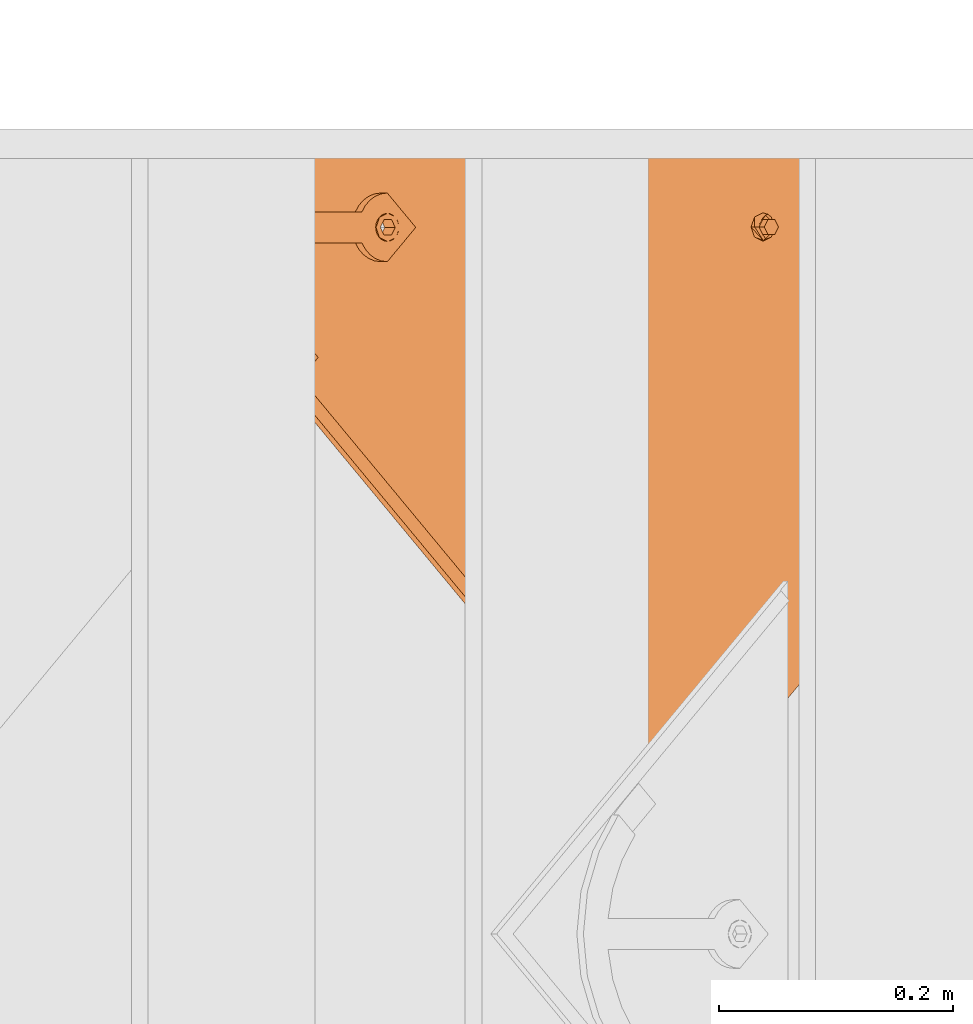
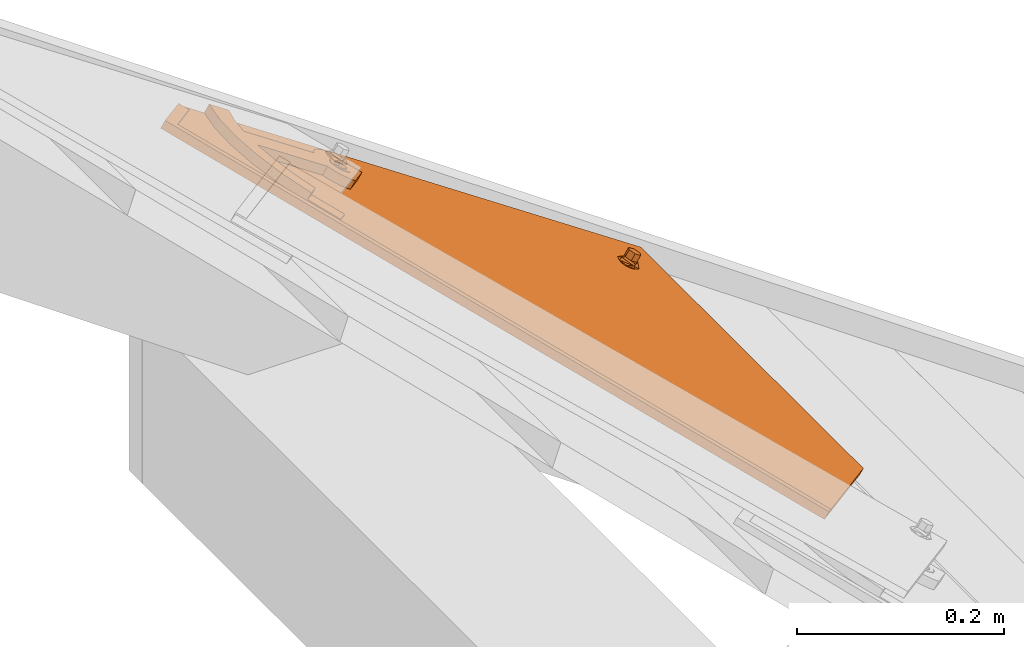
# One storey, part 121 of 133: 1 proxy.
"""IFC2X3 building model written with IfcOpenShell, lengths in millimetres."""

from ifc_helpers import new_model, entity, si_unit, converted_unit, derived_unit, direction, frame, origin, place, context, subcontext, project, spatial, faceted_brep, source, transform, mapped, material, material_list, type_object, type_shapes, element, save


model = new_model("IFC2X3")

# Units and contexts
model_context = context("Model", 3, precision=0.01, world=origin(), true_north=direction((6.12303176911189e-17, 1.0)))
body_context = subcontext(model_context, "Body", "Model", "MODEL_VIEW")
ifc_project = project(units=[si_unit("LENGTHUNIT", "METRE", prefix="MILLI"), si_unit("AREAUNIT", "SQUARE_METRE"), si_unit("VOLUMEUNIT", "CUBIC_METRE"), converted_unit("PLANEANGLEUNIT", "DEGREE", entity("IfcRatioMeasure", 0.0174532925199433), si_unit("PLANEANGLEUNIT", "RADIAN"), dimensions=[0, 0, 0, 0, 0, 0, 0]), si_unit("MASSUNIT", "GRAM", prefix="KILO"), derived_unit("MASSDENSITYUNIT", [(si_unit("MASSUNIT", "GRAM", prefix="KILO"), 1), (si_unit("LENGTHUNIT", "METRE"), -3)]), si_unit("TIMEUNIT", "SECOND"), si_unit("FREQUENCYUNIT", "HERTZ"), si_unit("THERMODYNAMICTEMPERATUREUNIT", "DEGREE_CELSIUS"), derived_unit("THERMALTRANSMITTANCEUNIT", [(si_unit("MASSUNIT", "GRAM", prefix="KILO"), 1), (si_unit("THERMODYNAMICTEMPERATUREUNIT", "KELVIN"), -1), (si_unit("TIMEUNIT", "SECOND"), -3)]), derived_unit("VOLUMETRICFLOWRATEUNIT", [(si_unit("LENGTHUNIT", "METRE"), 3), (si_unit("TIMEUNIT", "SECOND"), -1)]), si_unit("ELECTRICCURRENTUNIT", "AMPERE"), si_unit("ELECTRICVOLTAGEUNIT", "VOLT"), si_unit("POWERUNIT", "WATT"), si_unit("FORCEUNIT", "NEWTON", prefix="KILO"), si_unit("ILLUMINANCEUNIT", "LUX"), si_unit("LUMINOUSFLUXUNIT", "LUMEN"), si_unit("LUMINOUSINTENSITYUNIT", "CANDELA"), derived_unit("USERDEFINED", [(si_unit("MASSUNIT", "GRAM", prefix="KILO"), -1), (si_unit("LENGTHUNIT", "METRE"), -2), (si_unit("TIMEUNIT", "SECOND"), 3), (si_unit("LUMINOUSFLUXUNIT", "LUMEN"), 1)]), derived_unit("LINEARVELOCITYUNIT", [(si_unit("LENGTHUNIT", "METRE"), 1), (si_unit("TIMEUNIT", "SECOND"), -1)]), si_unit("PRESSUREUNIT", "PASCAL"), derived_unit("USERDEFINED", [(si_unit("LENGTHUNIT", "METRE"), -2), (si_unit("MASSUNIT", "GRAM", prefix="KILO"), 1), (si_unit("TIMEUNIT", "SECOND"), -2)])], contexts=[model_context])

# Site, building, storey
site_placement = place(None, origin())
site = spatial("IfcSite", under=ifc_project, at=site_placement, Name="Default", CompositionType="ELEMENT")
building_placement = place(site_placement, origin())
building = spatial("IfcBuilding", under=site, at=building_placement, CompositionType="ELEMENT")
storey_placement = place(building_placement, origin())
storey = spatial("IfcBuildingStorey", under=building, at=storey_placement, Name="Level 1", CompositionType="ELEMENT", Elevation=0.0)

# Proxy
ifc_material_1 = material(Name="Rubber - Sunstyle - Black")
ifc_material_2 = material(Name="Glass - Sunstyle - Tainted Black")
ifc_material_list_1 = material_list([ifc_material_1, ifc_material_2])
ifc_material_list_2 = material_list([ifc_material_1, ifc_material_2])
building_element_proxy_type = type_object("IfcBuildingElementProxyType", Name="Corner Bottom Big Right - Black", PredefinedType="NOTDEFINED", material=ifc_material_list_2)
shared_shape = source(origin(), body_context, "Body", "Brep", [
    faceted_brep([(0.270009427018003, -2.025866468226, -4.01619789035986), (-5.50419340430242, -5.35913660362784, -3.96037390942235), (-5.50419340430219, -4.99082751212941, 18.0314954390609), (0.270009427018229, -1.65755737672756, 17.9756714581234), (-5.50419340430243, -12.0256768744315, -3.84872594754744), (-5.5041934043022, -11.6573677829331, 18.1431434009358), (0.270009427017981, -15.3589470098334, -3.79290196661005), (0.270009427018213, -14.990637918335, 18.1989673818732), (6.04421225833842, -12.0256768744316, -3.84872594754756), (6.04421225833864, -11.6573677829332, 18.1431434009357), (6.04421225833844, -5.35913660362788, -3.96037390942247), (6.04421225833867, -4.99082751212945, 18.0314954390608), (-8.3336947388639, -16.9265954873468, 18.2313898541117), (0.27000942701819, -20.4898667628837, 18.2910657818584), (-11.8974656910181, -8.32409764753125, 18.0873194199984), (-8.33369473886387, 0.278400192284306, 17.9432489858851), (0.270009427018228, 3.84167146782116, 17.8835730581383), (8.87371359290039, 0.278400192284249, 17.9432489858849), (12.4374845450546, -8.32409764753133, 18.0873194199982), (8.87371359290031, -16.9265954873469, 18.2313898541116), (-11.1602134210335, -6.95050198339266, 20.4858706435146), (-9.50050407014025, -8.25322861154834, 22.3189355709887), (0.270009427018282, -0.940007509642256, 22.9603444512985), (0.27000942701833, 0.300490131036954, 22.3799978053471), (0.270009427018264, 2.4580409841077, 21.3706227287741), (-6.05323627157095, -4.59022324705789, 23.0214764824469), (-6.05323627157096, -11.8906547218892, 23.1437405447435), (0.270009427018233, -18.990246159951, 21.7298281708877), (0.270009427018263, -15.5408704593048, 23.2048725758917), (11.2551842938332, -12.0411541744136, 20.3827540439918), (10.3938597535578, -8.25726753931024, 22.077768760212), (6.59325512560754, -4.59022324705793, 23.0214764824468), (6.5932551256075, -11.8906547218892, 23.1437405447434), (-6.05323627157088, -11.7566262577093, 31.1466287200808), (0.270009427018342, -15.4068419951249, 31.207760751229), (0.270009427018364, -8.10641052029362, 31.0854966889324), (-6.05323627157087, -4.456194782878, 31.0243646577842), (6.59325512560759, -11.7566262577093, 31.1466287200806), (6.59325512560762, -4.45619478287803, 31.024364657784), (0.270009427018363, -0.805979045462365, 30.9632326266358), (0.270009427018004, -8.69240673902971, -3.90454992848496)], [[[0, 1, 2, 3]], [[1, 4, 5, 2]], [[4, 6, 7, 5]], [[6, 8, 9, 7]], [[8, 10, 11, 9]], [[10, 0, 3, 11]], [[12, 7, 13]], [[7, 12, 5]], [[14, 5, 12]], [[5, 14, 2]], [[15, 2, 14]], [[3, 2, 15]], [[15, 16, 3]], [[16, 17, 3]], [[11, 3, 17]], [[11, 17, 18]], [[9, 11, 18]], [[18, 19, 9]], [[7, 9, 19]], [[19, 13, 7]], [[15, 20, 16]], [[21, 22, 23, 24]], [[22, 21, 25]], [[20, 14, 12]], [[15, 14, 20]], [[25, 21, 26]], [[20, 24, 16]], [[12, 13, 27]], [[12, 27, 20]], [[21, 28, 26]], [[21, 27, 28]], [[20, 21, 24]], [[20, 27, 21]], [[19, 29, 13]], [[30, 23, 31]], [[30, 28, 27]], [[24, 23, 30]], [[29, 27, 13]], [[19, 18, 29]], [[29, 30, 27]], [[29, 17, 24]], [[24, 17, 16]], [[31, 32, 30]], [[23, 22, 31]], [[28, 30, 32]], [[29, 24, 30]], [[29, 18, 17]], [[33, 34, 35]], [[35, 36, 33]], [[34, 37, 35]], [[38, 35, 37]], [[35, 38, 39]], [[35, 39, 36]], [[40, 6, 4]], [[4, 1, 40]], [[1, 0, 40]], [[40, 8, 6]], [[0, 10, 40]], [[8, 40, 10]], [[22, 25, 36, 39]], [[25, 26, 33, 36]], [[26, 28, 34, 33]], [[28, 32, 37, 34]], [[32, 31, 38, 37]], [[31, 22, 39, 38]]]),
    faceted_brep([(-518.247351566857, 79.9143812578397, 14.9652572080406), (-518.247351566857, 79.9394990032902, 16.4650468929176), (-526.732038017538, 88.4241854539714, 16.3229495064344), (-526.732038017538, 88.399067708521, 14.8231598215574), (-0.00032251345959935, 614.98308737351, 6.00418773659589), (60.1037538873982, 554.895864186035, 7.01049921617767), (51.6190674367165, 546.411177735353, 7.15259660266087), (-0.000322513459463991, 598.016093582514, 6.28834266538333), (-0.000322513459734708, 615.00820511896, 7.50397742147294), (-0.000322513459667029, 598.041211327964, 7.78813235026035), (51.6190674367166, 546.436295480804, 8.65238628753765), (60.1037538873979, 554.920981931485, 8.51028890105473)], [[[0, 1, 2, 3]], [[0, 3, 4, 5, 6, 7]], [[3, 2, 8, 4]], [[2, 1, 9, 10, 11, 8]], [[1, 0, 7, 9]], [[6, 5, 11, 10]], [[4, 8, 11, 5]], [[9, 7, 6, 10]]]),
    faceted_brep([(0.0, 372.774440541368, 20.3195200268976), (0.0, 377.273809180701, 20.2441667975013), (-8.60370416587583, 376.337711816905, 20.2598440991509), (8.60370416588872, 376.337711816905, 20.2598440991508), (6.64022859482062, 381.107009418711, 20.1799702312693), (12.1674751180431, 384.940209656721, 20.1157736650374), (6.64022859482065, 388.773409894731, 20.0515770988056), (8.6037041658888, 393.542707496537, 19.9717032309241), (0.0, 392.606610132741, 19.9873805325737), (0.0, 397.105978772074, 19.9120273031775), (-8.60370416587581, 393.542707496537, 19.9717032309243), (-6.64022859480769, 388.773409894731, 20.0515770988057), (-12.1674751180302, 384.940209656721, 20.1157736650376), (-6.6402285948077, 381.107009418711, 20.1799702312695), (-6.6402282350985, 388.505487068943, 4.05382046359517), (0.0, 392.338687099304, 3.98962390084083), (-6.64022823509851, 380.839087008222, 4.18221358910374), (0.0, 377.005886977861, 4.24641015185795), (6.64022823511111, 380.839087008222, 4.1822135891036), (6.64022823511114, 388.505487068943, 4.05382046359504), (-8.603704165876, 376.069789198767, 4.26208746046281), (0.0, 372.50651792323, 4.32176338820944), (-12.1674751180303, 384.672287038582, 4.11801702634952), (-8.60370416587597, 393.274784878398, 3.97394659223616), (0.0, 396.838056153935, 3.91427066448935), (8.60370416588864, 393.274784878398, 3.97394659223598), (12.1674751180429, 384.672287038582, 4.11801702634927), (8.60370416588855, 376.069789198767, 4.26208746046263)], [[[0, 1, 2]], [[1, 0, 3]], [[3, 4, 1]], [[4, 3, 5]], [[6, 4, 5]], [[5, 7, 6]], [[7, 8, 6]], [[8, 7, 9]], [[8, 9, 10]], [[10, 11, 8]], [[12, 11, 10]], [[2, 13, 12]], [[12, 13, 11]], [[13, 2, 1]], [[8, 11, 14, 15]], [[11, 13, 16, 14]], [[13, 1, 17, 16]], [[1, 4, 18, 17]], [[4, 6, 19, 18]], [[6, 8, 15, 19]], [[20, 17, 21]], [[17, 20, 16]], [[22, 16, 20]], [[14, 16, 22]], [[23, 14, 22]], [[15, 14, 23]], [[23, 24, 15]], [[24, 25, 15]], [[19, 15, 25]], [[19, 25, 26]], [[26, 18, 19]], [[26, 27, 18]], [[17, 18, 27]], [[27, 21, 17]], [[24, 23, 10, 9]], [[10, 23, 22, 12]], [[20, 21, 0, 2]], [[20, 2, 12, 22]], [[21, 27, 3, 0]], [[3, 27, 26, 5]], [[25, 24, 9, 7]], [[25, 7, 5, 26]]]),
    faceted_brep([(-10.3923048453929, 390.78484910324, 9.75895037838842), (-8.48528137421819, 393.269782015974, 9.7173339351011), (-0.00032251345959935, 614.983087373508, 6.0041877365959), (-11.5911099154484, 387.891083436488, 9.8074137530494), (-6.0, 395.176538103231, 9.68540051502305), (-3.10582854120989, 396.37517508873, 9.6653263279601), (60.1037538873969, 554.895864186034, 7.01049921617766), (0.0, 396.784007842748, 9.65847939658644), (3.1058285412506, 396.37517508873, 9.6653263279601), (6.0, 395.176538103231, 9.68540051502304), (8.48528137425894, 393.269782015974, 9.7173339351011), (10.3923048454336, 390.784849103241, 9.75895037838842), (11.5911099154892, 387.891083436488, 9.8074137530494), (12.0, 384.785690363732, 9.8594213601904), (11.5911099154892, 381.680297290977, 9.9114289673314), (60.103753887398, -67.933460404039, 17.4413406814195), (10.3923048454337, 378.786531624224, 9.95989234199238), (6.58173564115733, -3.94243384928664, 16.369650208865), (8.48528137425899, 376.301598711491, 10.0015087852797), (5.31038666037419, -2.28581190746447, 16.3419059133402), (6.0, 374.394842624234, 10.0334422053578), (3.65353241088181, -1.01464118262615, 16.3206169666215), (3.10582854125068, 373.196205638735, 10.0535163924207), (1.72408477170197, -0.215549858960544, 16.3072341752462), (0.0, 372.787372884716, 10.0603633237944), (-0.346467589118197, 0.0570053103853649, 16.3026695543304), (-2.41701994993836, -0.215549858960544, 16.3072341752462), (-3.10582854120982, 373.196205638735, 10.0535163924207), (-4.34646758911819, -1.01464118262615, 16.3206169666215), (-6.0, 374.394842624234, 10.0334422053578), (-6.00332183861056, -2.28581190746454, 16.3419059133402), (-8.48528137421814, 376.301598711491, 10.0015087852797), (-370.355661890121, -67.9334604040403, 17.4413406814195), (-10.3923048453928, 378.786531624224, 9.95989234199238), (-526.732038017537, 88.3990677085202, 14.8231598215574), (-11.5911099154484, 381.680297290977, 9.9114289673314), (-12.0, 384.785690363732, 9.8594213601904), (-7.27467081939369, -3.94243384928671, 16.369650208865), (-8.07387419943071, -5.87161096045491, 16.4019591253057), (-8.34646758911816, -7.94187300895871, 16.4366308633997), (-8.0738741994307, -10.0121350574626, 16.4713026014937), (-7.27467081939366, -11.9413121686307, 16.5036115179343), (-6.00332183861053, -13.5979341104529, 16.5313558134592), (-4.34646758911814, -14.8691048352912, 16.5526447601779), (-2.41701994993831, -15.6681961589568, 16.5660275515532), (7.38093902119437, -5.87161096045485, 16.4019591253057), (7.65353241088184, -7.94187300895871, 16.4366308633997), (7.38093902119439, -10.0121350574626, 16.4713026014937), (6.58173564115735, -11.9413121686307, 16.5036115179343), (5.31038666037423, -13.5979341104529, 16.5313558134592), (3.65353241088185, -14.8691048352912, 16.5526447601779), (1.72408477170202, -15.6681961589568, 16.5660275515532), (-0.346467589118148, -15.9407513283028, 16.570592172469), (-370.355661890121, -68.0590491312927, 9.94239225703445), (-8.0738741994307, -10.1377237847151, 8.97235417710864), (-7.27467081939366, -12.0669008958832, 9.00466309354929), (-8.34646758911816, -8.06746173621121, 8.93768243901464), (-6.00332183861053, -13.7235228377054, 9.03240738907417), (-4.34646758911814, -14.9946935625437, 9.05369633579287), (60.103753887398, -68.0590491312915, 9.94239225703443), (-8.07387419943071, -5.99719968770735, 8.90301070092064), (-7.27467081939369, -4.06802257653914, 8.87070178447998), (-6.00332183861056, -2.41140063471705, 8.8429574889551), (-8.48528137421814, 376.176009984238, 2.50256036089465), (-10.3923048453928, 378.660942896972, 2.46094391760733), (-526.732038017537, 88.2734789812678, 7.32421139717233), (-11.5911099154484, 381.554708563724, 2.41248054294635), (-12.0, 384.66010163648, 2.36047293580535), (-11.5911099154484, 387.765494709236, 2.30846532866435), (-0.00032251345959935, 614.857498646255, -1.49476068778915), (-10.3923048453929, 390.659260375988, 2.26000195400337), (-8.48528137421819, 393.144193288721, 2.21838551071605), (-6.0, 395.050949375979, 2.18645209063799), (-3.10582854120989, 396.249586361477, 2.16637790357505), (60.1037538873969, 554.770275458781, -0.488449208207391), (0.0, 396.658419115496, 2.15953097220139), (3.1058285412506, 396.249586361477, 2.16637790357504), (6.0, 395.050949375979, 2.18645209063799), (8.48528137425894, 393.144193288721, 2.21838551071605), (10.3923048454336, 390.659260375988, 2.26000195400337), (11.5911099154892, 387.765494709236, 2.30846532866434), (12.0, 384.66010163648, 2.36047293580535), (11.5911099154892, 381.554708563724, 2.41248054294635), (-2.41701994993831, -15.7937848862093, 9.06707912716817), (-0.346467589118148, -16.0663400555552, 9.07164374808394), (1.72408477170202, -15.7937848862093, 9.06707912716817), (3.65353241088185, -14.9946935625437, 9.05369633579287), (5.31038666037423, -13.7235228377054, 9.03240738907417), (6.58173564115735, -12.0669008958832, 9.00466309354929), (7.38093902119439, -10.1377237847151, 8.97235417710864), (7.65353241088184, -8.06746173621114, 8.93768243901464), (7.38093902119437, -5.99719968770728, 8.90301070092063), (6.58173564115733, -4.06802257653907, 8.87070178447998), (10.3923048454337, 378.660942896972, 2.46094391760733), (-6.0, 374.269253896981, 2.5344937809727), (-4.34646758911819, -1.14022990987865, 8.8216685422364), (-3.10582854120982, 373.070616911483, 2.55456796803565), (-2.41701994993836, -0.341138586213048, 8.8082857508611), (0.0, 372.661784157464, 2.56141489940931), (-0.346467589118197, -0.0685834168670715, 8.80372112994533), (1.72408477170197, -0.341138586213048, 8.8082857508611), (3.10582854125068, 373.070616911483, 2.55456796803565), (3.65353241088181, -1.14022990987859, 8.8216685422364), (6.0, 374.269253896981, 2.5344937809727), (5.31038666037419, -2.41140063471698, 8.8429574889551), (8.48528137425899, 376.176009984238, 2.50256036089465)], [[[0, 1, 2]], [[3, 0, 2]], [[4, 2, 1]], [[2, 4, 5]], [[6, 2, 5]], [[7, 6, 5]], [[7, 8, 6]], [[8, 9, 6]], [[10, 6, 9]], [[6, 10, 11]], [[6, 11, 12]], [[12, 13, 6]], [[13, 14, 6]], [[6, 14, 15]], [[14, 16, 15]], [[17, 15, 16]], [[18, 17, 16]], [[17, 18, 19]], [[18, 20, 19]], [[21, 19, 20]], [[20, 22, 21]], [[23, 21, 22]], [[24, 23, 22]], [[23, 24, 25]], [[26, 25, 24]], [[24, 27, 26]], [[26, 27, 28]], [[29, 28, 27]], [[28, 29, 30]], [[29, 31, 30]], [[32, 30, 31]], [[33, 32, 31]], [[33, 34, 32]], [[33, 35, 34]], [[35, 36, 34]], [[36, 3, 34]], [[3, 2, 34]], [[30, 32, 37]], [[37, 32, 38]], [[32, 39, 38]], [[39, 32, 40]], [[40, 32, 41]], [[42, 41, 32]], [[42, 32, 43]], [[43, 32, 15]], [[15, 44, 43]], [[17, 45, 15]], [[45, 46, 15]], [[47, 15, 46]], [[47, 48, 15]], [[49, 15, 48]], [[15, 49, 50]], [[50, 51, 15]], [[51, 52, 15]], [[52, 44, 15]], [[53, 54, 55]], [[54, 53, 56]], [[53, 55, 57]], [[57, 58, 53]], [[53, 58, 59]], [[60, 56, 53]], [[61, 60, 53]], [[61, 53, 62]], [[63, 62, 53]], [[64, 63, 53]], [[65, 64, 53]], [[65, 66, 64]], [[66, 65, 67]], [[67, 65, 68]], [[65, 69, 68]], [[70, 68, 69]], [[71, 70, 69]], [[72, 71, 69]], [[69, 73, 72]], [[74, 73, 69]], [[75, 73, 74]], [[76, 75, 74]], [[77, 76, 74]], [[74, 78, 77]], [[78, 74, 79]], [[80, 79, 74]], [[80, 74, 81]], [[82, 81, 74]], [[82, 74, 59]], [[59, 58, 83]], [[84, 59, 83]], [[84, 85, 59]], [[85, 86, 59]], [[87, 59, 86]], [[59, 87, 88]], [[59, 88, 89]], [[89, 90, 59]], [[90, 91, 59]], [[91, 92, 59]], [[92, 93, 59]], [[93, 82, 59]], [[94, 62, 63]], [[94, 95, 62]], [[96, 95, 94]], [[97, 95, 96]], [[96, 98, 97]], [[99, 97, 98]], [[99, 98, 100]], [[101, 100, 98]], [[102, 100, 101]], [[103, 102, 101]], [[104, 102, 103]], [[103, 105, 104]], [[105, 92, 104]], [[105, 93, 92]], [[36, 67, 68, 3]], [[3, 68, 70, 0]], [[4, 1, 71, 72]], [[70, 71, 1, 0]], [[5, 4, 72, 73]], [[75, 7, 5, 73]], [[8, 76, 77, 9]], [[9, 77, 78, 10]], [[12, 11, 79, 80]], [[78, 79, 11, 10]], [[13, 12, 80, 81]], [[8, 7, 75, 76]], [[13, 81, 82, 14]], [[14, 82, 93, 16]], [[20, 18, 105, 103]], [[93, 105, 18, 16]], [[22, 20, 103, 101]], [[98, 24, 22, 101]], [[27, 96, 94, 29]], [[29, 94, 63, 31]], [[35, 33, 64, 66]], [[63, 64, 33, 31]], [[36, 35, 66, 67]], [[27, 24, 98, 96]], [[34, 2, 69, 65]], [[32, 34, 65, 53]], [[15, 32, 53, 59]], [[6, 15, 59, 74]], [[2, 6, 74, 69]], [[39, 56, 60, 38]], [[38, 60, 61, 37]], [[28, 30, 62, 95]], [[62, 30, 37, 61]], [[26, 28, 95, 97]], [[26, 97, 99, 25]], [[25, 99, 100, 23]], [[23, 100, 102, 21]], [[17, 19, 104, 92]], [[104, 19, 21, 102]], [[45, 17, 92, 91]], [[45, 91, 90, 46]], [[46, 90, 89, 47]], [[47, 89, 88, 48]], [[50, 49, 87, 86]], [[87, 49, 48, 88]], [[51, 50, 86, 85]], [[51, 85, 84, 52]], [[52, 84, 83, 44]], [[44, 83, 58, 43]], [[41, 42, 57, 55]], [[57, 42, 43, 58]], [[40, 41, 55, 54]], [[40, 54, 56, 39]]]),
    faceted_brep([(-114.2509690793, 483.839345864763, 10.7008696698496), (-128.946713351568, 469.147722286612, 10.9469178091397), (-111.269043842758, 451.472531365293, 11.2429332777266), (-84.944396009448, 477.793488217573, 10.8021227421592), (-102.027571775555, 494.874268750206, 10.5160621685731), (-108.279973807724, 489.512620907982, 10.6058564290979), (0.0, 355.735286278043, 10.3459433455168), (0.0, 373.122276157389, 10.0547545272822), (3.10582854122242, 373.531108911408, 10.0479075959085), (-3.10582854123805, 373.531108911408, 10.0479075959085), (6.0, 374.729745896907, 10.0278334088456), (8.48528137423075, 376.636501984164, 9.99589998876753), (29.3894280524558, 385.120593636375, 9.85381256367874), (-6.0, 374.729745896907, 10.0278334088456), (-8.4852813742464, 376.636501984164, 9.99589998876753), (-29.3894280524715, 385.120593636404, 9.85381256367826), (-10.3923048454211, 379.121434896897, 9.95428354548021), (-11.5911099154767, 382.01520056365, 9.90582017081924), (-12.0, 385.120593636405, 9.85381256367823), (-28.6795527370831, 391.540108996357, 9.74630165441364), (-11.5911099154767, 388.225986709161, 9.80180495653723), (-26.5842195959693, 397.649509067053, 9.64398440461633), (-10.3923048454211, 391.119752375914, 9.75334158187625), (-23.204650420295, 403.153659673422, 9.55180357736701), (-8.48528137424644, 393.604685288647, 9.71172513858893), (-18.704106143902, 407.786665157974, 9.47421226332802), (-6.0, 395.511441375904, 9.67979171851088), (-13.3000000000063, 411.324713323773, 9.41495875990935), (-3.10582854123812, 396.710078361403, 9.65971753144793), (0.0, 397.118911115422, 9.65287060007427), (13.2999999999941, 411.324713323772, 9.41495875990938), (-13.3000000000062, 505.643535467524, 7.83535317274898), (13.2999999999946, 505.643535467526, 7.83535317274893), (-7.21723712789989, 530.953901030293, 7.41146752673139), (-41.1626974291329, 525.784666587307, 7.49803934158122), (-38.7697427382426, 500.828655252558, 7.91599043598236), (-73.2491712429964, 513.560140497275, 7.70276973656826), (-62.9243331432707, 491.42502143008, 8.07347790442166), (-84.9431983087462, 477.752822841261, 8.30245321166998), (-102.027571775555, 494.832405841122, 8.01641269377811), (-108.279973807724, 489.470757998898, 8.10620695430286), (-114.2509690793, 483.79748295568, 8.20122019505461), (-111.269043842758, 451.430668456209, 8.74328380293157), (-128.946713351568, 469.105859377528, 8.44726833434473), (27.0541674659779, 528.834391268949, 7.44696404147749), (37.2599857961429, 501.252149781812, 7.90889795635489), (60.1037538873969, 519.521858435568, 7.60292579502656), (60.1037538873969, 492.795625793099, 8.05052369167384), (3.10582854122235, 396.710078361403, 9.65971753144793), (6.0, 395.511441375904, 9.67979171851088), (18.7041061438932, 407.786665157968, 9.47421226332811), (8.48528137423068, 393.604685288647, 9.71172513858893), (23.2046504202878, 403.153659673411, 9.55180357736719), (10.3923048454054, 391.119752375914, 9.75334158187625), (26.5842195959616, 397.649509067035, 9.64398440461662), (11.591109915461, 388.225986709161, 9.80180495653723), (28.6795527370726, 391.540108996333, 9.74630165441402), (12.0, 385.120593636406, 9.85381256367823), (11.591109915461, 382.01520056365, 9.90582017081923), (10.3923048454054, 379.121434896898, 9.95428354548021), (-38.7697427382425, 500.996106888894, 17.9145883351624), (-41.1626974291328, 525.952118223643, 17.4966372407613), (-73.2491712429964, 513.727592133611, 17.7013676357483), (-62.9243331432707, 491.592473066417, 18.0720758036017), (-13.3000000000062, 505.810987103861, 17.833951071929), (-7.21723712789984, 531.121352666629, 17.4100654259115), (13.2999999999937, 505.810987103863, 17.833951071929), (-13.3000000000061, 411.49216496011, 19.4135566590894), (13.2999999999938, 411.492164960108, 19.4135566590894), (0.0, 397.286362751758, 19.6514684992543), (-3.10582854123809, 396.877529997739, 19.658315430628), (-6.0, 395.678893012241, 19.6783896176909), (-18.7041061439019, 407.954116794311, 19.4728101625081), (-8.48528137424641, 393.772136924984, 19.710323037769), (-23.2046504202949, 403.321111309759, 19.5504014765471), (-10.3923048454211, 391.28720401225, 19.7519394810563), (-26.5842195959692, 397.816960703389, 19.6425823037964), (-11.5911099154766, 388.393438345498, 19.8004028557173), (-28.6795527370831, 391.707560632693, 19.7448995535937), (-12.0, 385.288045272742, 19.8524104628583), (-29.3894280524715, 385.28804527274, 19.8524104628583), (-11.5911099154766, 382.182652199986, 19.9044180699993), (-10.3923048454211, 379.288886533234, 19.9528814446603), (-8.48528137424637, 376.803953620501, 19.9944978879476), (0.0, 355.902737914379, 20.3445412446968), (-6.0, 374.897197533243, 20.0264313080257), (-3.10582854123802, 373.698560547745, 20.0465054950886), (0.0, 373.289727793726, 20.0533524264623), (3.10582854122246, 373.698560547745, 20.0465054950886), (6.0, 374.897197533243, 20.0264313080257), (8.48528137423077, 376.803953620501, 19.9944978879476), (29.3894280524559, 385.288045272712, 19.8524104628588), (10.3923048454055, 379.288886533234, 19.9528814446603), (11.591109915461, 382.182652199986, 19.9044180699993), (12.0, 385.288045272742, 19.8524104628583), (28.6795527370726, 391.70756063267, 19.7448995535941), (11.591109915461, 388.393438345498, 19.8004028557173), (26.5842195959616, 397.816960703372, 19.6425823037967), (10.3923048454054, 391.28720401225, 19.7519394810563), (23.2046504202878, 403.321111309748, 19.5504014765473), (8.48528137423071, 393.772136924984, 19.710323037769), (18.7041061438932, 407.954116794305, 19.4728101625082), (6.0, 395.678893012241, 19.6783896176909), (3.10582854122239, 396.877529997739, 19.658315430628), (27.0541674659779, 529.001842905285, 17.4455619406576), (37.259985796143, 501.419601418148, 17.907495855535), (60.1037538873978, 519.689310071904, 17.6015236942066), (60.1037538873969, 492.963077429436, 18.0491215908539), (-84.9443960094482, 477.919076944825, 18.3010711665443), (-102.027571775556, 494.999857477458, 18.0150105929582)], [[[0, 1, 2, 3, 4, 5]], [[6, 7, 8]], [[7, 6, 9]], [[6, 8, 10]], [[10, 11, 6]], [[6, 11, 12]], [[13, 9, 6]], [[14, 13, 6]], [[14, 6, 15]], [[15, 16, 14]], [[16, 15, 17]], [[17, 15, 18]], [[19, 18, 15]], [[20, 18, 19]], [[19, 21, 20]], [[20, 21, 22]], [[23, 22, 21]], [[23, 24, 22]], [[23, 25, 24]], [[25, 26, 24]], [[26, 25, 27]], [[28, 26, 27]], [[27, 29, 28]], [[30, 29, 27]], [[30, 27, 31]], [[30, 31, 32]], [[31, 33, 32]], [[33, 31, 34]], [[35, 34, 31]], [[34, 35, 36]], [[37, 36, 35]], [[37, 38, 36]], [[36, 38, 39]], [[40, 39, 38]], [[40, 38, 41]], [[38, 42, 41]], [[42, 43, 41]], [[32, 33, 44]], [[44, 45, 32]], [[45, 44, 46]], [[46, 47, 45]], [[48, 29, 30]], [[30, 49, 48]], [[49, 30, 50]], [[50, 51, 49]], [[50, 52, 51]], [[51, 52, 53]], [[54, 53, 52]], [[54, 55, 53]], [[56, 55, 54]], [[57, 55, 56]], [[12, 57, 56]], [[58, 57, 12]], [[12, 11, 59]], [[58, 12, 59]], [[1, 0, 41, 43]], [[2, 1, 43, 42]], [[4, 39, 40, 5]], [[40, 41, 0, 5]], [[3, 2, 42, 38]], [[60, 61, 62]], [[63, 60, 62]], [[64, 61, 60]], [[61, 64, 65]], [[66, 65, 64]], [[66, 64, 67]], [[66, 67, 68]], [[68, 67, 69]], [[67, 70, 69]], [[71, 70, 67]], [[71, 67, 72]], [[72, 73, 71]], [[73, 72, 74]], [[73, 74, 75]], [[74, 76, 75]], [[75, 76, 77]], [[78, 77, 76]], [[78, 79, 77]], [[78, 80, 79]], [[79, 80, 81]], [[82, 81, 80]], [[83, 82, 80]], [[83, 80, 84]], [[85, 83, 84]], [[86, 85, 84]], [[87, 86, 84]], [[87, 84, 88]], [[89, 88, 84]], [[89, 84, 90]], [[91, 90, 84]], [[92, 90, 91]], [[91, 93, 92]], [[93, 91, 94]], [[95, 94, 91]], [[95, 96, 94]], [[95, 97, 96]], [[96, 97, 98]], [[99, 98, 97]], [[98, 99, 100]], [[100, 99, 101]], [[101, 68, 102]], [[100, 101, 102]], [[102, 68, 103]], [[103, 68, 69]], [[66, 104, 65]], [[105, 104, 66]], [[105, 106, 104]], [[106, 105, 107]], [[108, 63, 62]], [[62, 109, 108]], [[66, 68, 30, 32]], [[95, 91, 12, 56]], [[97, 95, 56, 54]], [[54, 52, 99, 97]], [[101, 99, 52, 50]], [[68, 101, 50, 30]], [[91, 84, 6, 12]], [[84, 80, 15, 6]], [[72, 67, 27, 25]], [[74, 72, 25, 23]], [[23, 21, 76, 74]], [[78, 76, 21, 19]], [[80, 78, 19, 15]], [[67, 64, 31, 27]], [[104, 106, 46, 44]], [[65, 104, 44, 33]], [[33, 34, 61, 65]], [[62, 61, 34, 36]], [[4, 109, 62, 36, 39]], [[79, 18, 20, 77]], [[77, 20, 22, 75]], [[71, 73, 24, 26]], [[22, 24, 73, 75]], [[70, 71, 26, 28]], [[29, 69, 70, 28]], [[103, 48, 49, 102]], [[102, 49, 51, 100]], [[96, 98, 53, 55]], [[51, 53, 98, 100]], [[94, 96, 55, 57]], [[103, 69, 29, 48]], [[94, 57, 58, 93]], [[93, 58, 59, 92]], [[89, 90, 11, 10]], [[59, 11, 90, 92]], [[88, 89, 10, 8]], [[7, 87, 88, 8]], [[86, 9, 13, 85]], [[85, 13, 14, 83]], [[81, 82, 16, 17]], [[14, 16, 82, 83]], [[79, 81, 17, 18]], [[86, 87, 7, 9]], [[108, 109, 4, 3]], [[32, 45, 105, 66]], [[47, 107, 105, 45]], [[3, 37, 63, 108]], [[3, 38, 37]], [[35, 31, 64, 60]], [[37, 35, 60, 63]], [[106, 107, 47, 46]]]),
])
type_shapes(building_element_proxy_type, [shared_shape])
proxy_placement = place(storey_placement, frame((4443.51856647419, 3866.41953211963, 564.129856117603), z_axis=(0.573576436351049, 0.0, 0.81915204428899), x_axis=(0.0, 1.0, 0.0)))
element("IfcBuildingElementProxy", 1, at=proxy_placement, inside=storey, type_object=building_element_proxy_type, material=ifc_material_list_1, Name="Roofing_Panels_SunStyle_Tile_Corner-Bottom-Big-Right:Corner Bottom Big Right - Black", ObjectType="Roofing_Panels_SunStyle_Tile_Corner-Bottom-Big-Right:Corner Bottom Big Right - Black", context=body_context, shape_type="MappedRepresentation", body=[
    mapped(shared_shape, transform((0.0, 0.0, 0.0), scale=1.0)),
])

save(model, "model.ifc")
